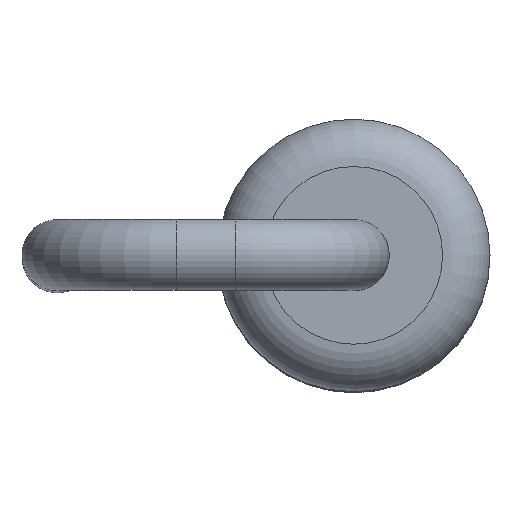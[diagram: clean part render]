
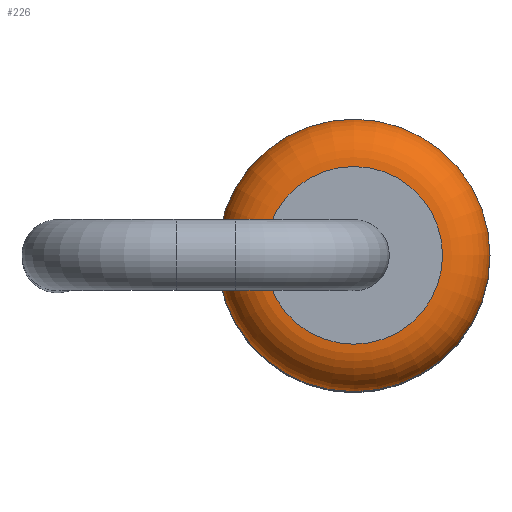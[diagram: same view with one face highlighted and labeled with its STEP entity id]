
A CAD part, top view. The second image highlights one B-rep face of the part: STEP entity #226.
In plain terms, the highlighted toroidal (fillet/blend) face has major radius 0.75 mm and minor radius 0.4 mm.
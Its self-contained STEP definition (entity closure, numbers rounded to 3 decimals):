
#226=ADVANCED_FACE('',(#413,#415),#417,.T.);
#413=FACE_OUTER_BOUND('',#414,.T.);
#414=EDGE_LOOP('',(#508));
#415=FACE_OUTER_BOUND('',#416,.T.);
#416=EDGE_LOOP('',(#509));
#417=TOROIDAL_SURFACE('',#418,0.75,0.4);
#418=AXIS2_PLACEMENT_3D('',#419,#420,#421);
#419=CARTESIAN_POINT('',(0.,0.,2.85));
#420=DIRECTION('',(0.,0.,1.));
#421=DIRECTION('',(1.,0.,0.));
#508=ORIENTED_EDGE('',*,*,#535,.T.);
#509=ORIENTED_EDGE('',*,*,#536,.F.);
#535=EDGE_CURVE('',#567,#567,#568,.T.);
#536=EDGE_CURVE('',#569,#569,#570,.T.);
#567=VERTEX_POINT('',#643);
#568=CIRCLE('',#644,1.15);
#569=VERTEX_POINT('',#648);
#570=CIRCLE('',#649,0.75);
#643=CARTESIAN_POINT('',(1.15,0.,2.85));
#644=AXIS2_PLACEMENT_3D('',#645,#646,#647);
#645=CARTESIAN_POINT('',(0.,0.,2.85));
#646=DIRECTION('',(0.,0.,1.));
#647=DIRECTION('',(1.,0.,0.));
#648=CARTESIAN_POINT('',(0.75,0.,3.25));
#649=AXIS2_PLACEMENT_3D('',#650,#651,#652);
#650=CARTESIAN_POINT('',(0.,0.,3.25));
#651=DIRECTION('',(0.,0.,1.));
#652=DIRECTION('',(1.,0.,0.));
